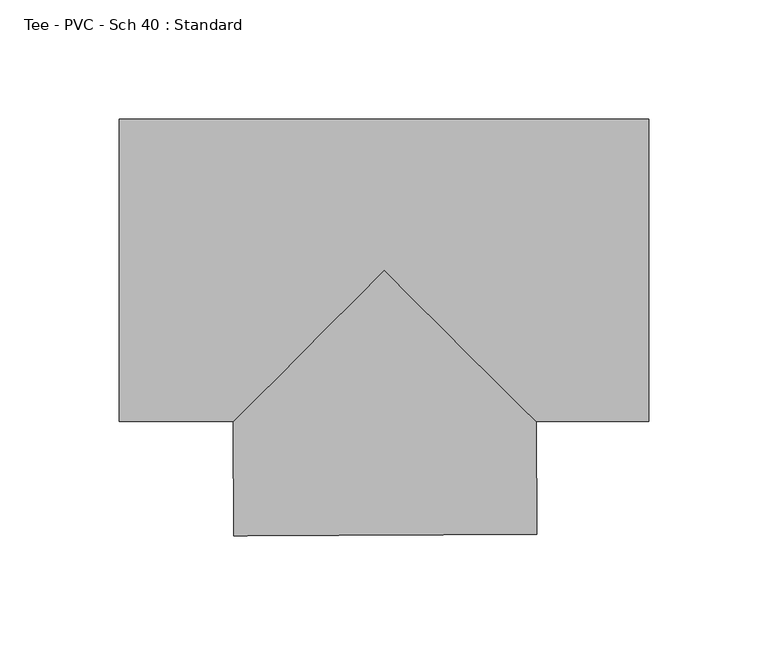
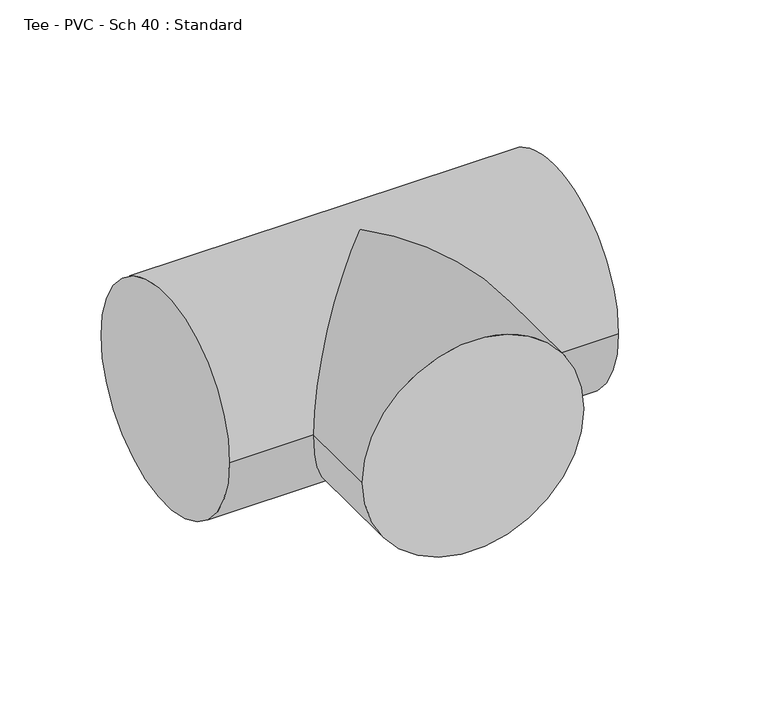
"""IFC4 building model written with IfcOpenShell, lengths in millimetres: pipe fitting geometry, Tee - PVC - Sch 40 : Standard."""

from ifc_helpers import new_model, si_unit, frame, origin, place, context, project, spatial, circle_curve, ellipse_curve, source, transform, mapped, element, save
from ifc_brep_helpers import plane_surface, cylinder_surface, advanced_brep


def tee_pvc_sch_40_standard_216bb700(model_context):
    return source(origin(), model_context, "Body", "AdvancedBrep", [
        advanced_brep(
        [(-111.125, -63.5, 0.0), (-111.125, 63.5, 0.0), (111.125, -63.5, 0.0), (111.125, 63.5, 0.0), (-63.1929512, -63.5, 0.0), (0.0, 0.0, 63.5), (63.8085407, -63.5, 0.0), (0.0, 0.0, -63.5), (-62.9606196, -111.4314857, 0.0), (64.0378885, -110.8159034, 0.0)],
        [
            (0, 1, circle_curve(frame((-111.125, 0.0, 0.0), z_axis=(-1.0, 0.0, 0.0), x_axis=(0.0, 1.0, 0.0)), 63.5)),
            (1, 0, circle_curve(frame((-111.125, 0.0, 0.0), z_axis=(-1.0, 0.0, 0.0), x_axis=(0.0, 1.0, 0.0)), 63.5)),
            (2, 3, circle_curve(frame((111.125, 0.0, 0.0), z_axis=(1.0, 0.0, 0.0), x_axis=(0.0, 1.0, 0.0)), 63.5)),
            (3, 2, circle_curve(frame((111.125, 0.0, 0.0), z_axis=(1.0, 0.0, 0.0), x_axis=(0.0, 1.0, 0.0)), 63.5)),
            (0, 4),
            (4, 5, ellipse_curve(frame((0.0, 0.0, 0.0), z_axis=(-0.7088184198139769, 0.7053909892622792, 0.0), x_axis=(-0.7053909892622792, -0.708818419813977, 0.0)), 89.585708, 63.5)),
            (5, 6, ellipse_curve(frame((0.0, 0.0, 0.0), z_axis=(0.7053909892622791, 0.7088184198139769, 0.0), x_axis=(-0.7088184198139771, 0.705390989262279, 0.0)), 90.0209968, 63.5)),
            (6, 2),
            (3, 1),
            (6, 7, ellipse_curve(frame((0.0, 0.0, 0.0), z_axis=(0.7053909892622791, 0.7088184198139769, 0.0), x_axis=(-0.7088184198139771, 0.705390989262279, 0.0)), 90.0209968, 63.5)),
            (7, 4, ellipse_curve(frame((0.0, 0.0, 0.0), z_axis=(-0.7088184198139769, 0.7053909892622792, 0.0), x_axis=(-0.7053909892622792, -0.708818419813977, 0.0)), 89.585708, 63.5)),
            (8, 9, circle_curve(frame((0.5386345, -111.1236946, 0.0), z_axis=(0.0048471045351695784, -0.9999882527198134, 0.0), x_axis=(0.9999882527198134, 0.0048471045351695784, 0.0)), 63.5)),
            (9, 8, circle_curve(frame((0.5386345, -111.1236946, 0.0), z_axis=(0.0048471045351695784, -0.9999882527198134, 0.0), x_axis=(0.9999882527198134, 0.0048471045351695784, 0.0)), 63.5)),
            (9, 6),
            (4, 8),
        ],
        [
            plane_surface(frame((-111.125, 0.0, 0.0), z_axis=(-1.0, 0.0, 0.0), x_axis=(0.0, 0.0, 1.0))),
            plane_surface(frame((111.125, 0.0, 0.0), z_axis=(1.0, 0.0, 0.0), x_axis=(0.0, 0.0, 1.0))),
            cylinder_surface(frame((-111.125, 0.0, 0.0), z_axis=(-1.0, 0.0, 0.0), x_axis=(0.0, 1.0, 0.0)), 63.5),
            plane_surface(frame((0.5386345, -111.1236946, 0.0), z_axis=(0.0048471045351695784, -0.9999882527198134, 0.0), x_axis=(0.0, 0.0, 1.0))),
            cylinder_surface(frame((0.0, 0.0, 0.0), z_axis=(-0.0048471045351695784, 0.9999882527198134, 0.0), x_axis=(0.9999882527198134, 0.0048471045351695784, 0.0)), 63.5),
        ],
        [
            (0, [[1, 2]]),
            (1, [[3, 4]]),
            (2, [[-1, 5, 6, 7, 8, -4, 9]]),
            (2, [[-2, -9, -3, -8, 10, 11, -5]]),
            (3, [[12, 13]]),
            (4, [[-13, 14, -7, -6, 15]]),
            (4, [[-12, -15, -11, -10, -14]]),
        ],
    ),
    ])


if __name__ == "__main__":
    model = new_model("IFC4")
    model_context = context("Model", 3, world=origin())
    ifc_project = project(units=[si_unit("LENGTHUNIT", "METRE", prefix="MILLI")], contexts=[model_context])
    site = spatial("IfcSite", under=ifc_project)
    building = spatial("IfcBuilding", under=site)
    placement = place(None, origin())
    tee_pvc_sch_40_standard_shape = tee_pvc_sch_40_standard_216bb700(model_context)
    element("IfcPipeFitting", 1, ObjectType="Tee - PVC - Sch 40 : Standard", at=placement, inside=building, context=model_context, shape_type="MappedRepresentation", body=[
        mapped(tee_pvc_sch_40_standard_shape, transform((0.0, 0.0, 0.0), x_axis=(1.0, 0.0, 0.0), y_axis=(0.0, 1.0, 0.0), z_axis=(0.0, 0.0, 1.0))),
    ])
    save(model, "model.ifc")
